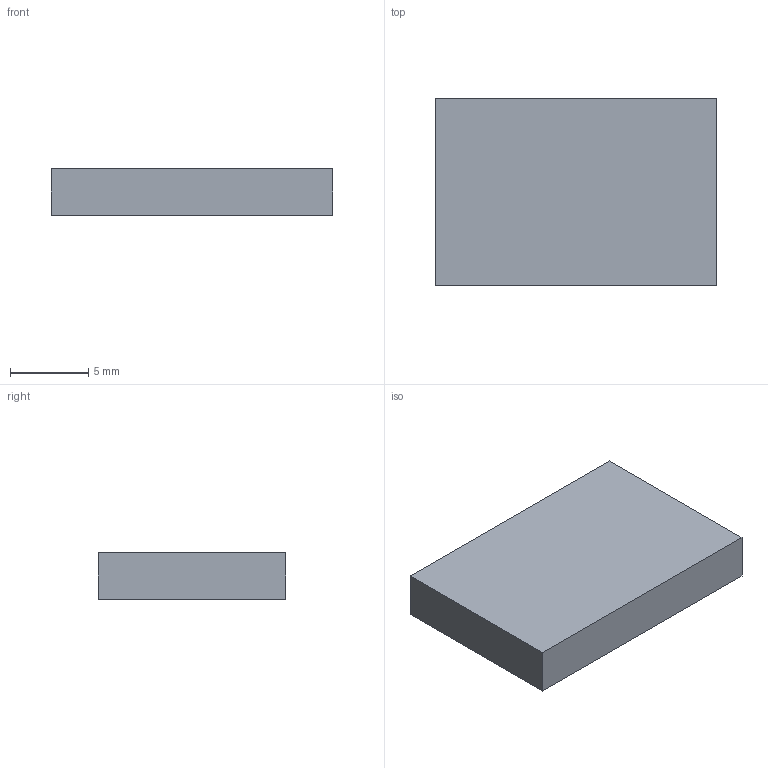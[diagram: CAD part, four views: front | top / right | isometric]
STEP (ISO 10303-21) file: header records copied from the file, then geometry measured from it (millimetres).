
FILE_DESCRIPTION(('Open CASCADE Model'),'2;1');
FILE_NAME('Open CASCADE Shape Model','2026-11-09T21:30:06',('Author'),( 'Open CASCADE'),'Open CASCADE STEP processor 8.0','Open CASCADE 8.0' ,'Unknown');
FILE_SCHEMA(('AUTOMOTIVE_DESIGN { 1 0 10303 214 1 1 1 1 }'));
Length unit declared in the file: millimetre
Products named in the file (1): Open CASCADE STEP translator 8.0 9
Bounding box: 18 x 12 x 3 mm (x, y, z)
Volume: 648 mm3; surface area: 612 mm2
Topology: 1 solids, 1 shells, 6 faces, 12 edges, 8 vertices
Faces by surface type: plane 6
Entity records: 322 total; most frequent: CARTESIAN_POINT 51, DIRECTION 50, LINE 36, VECTOR 36, ORIENTED_EDGE 24, PCURVE 24, DEFINITIONAL_REPRESENTATION 24, EDGE_CURVE 12
